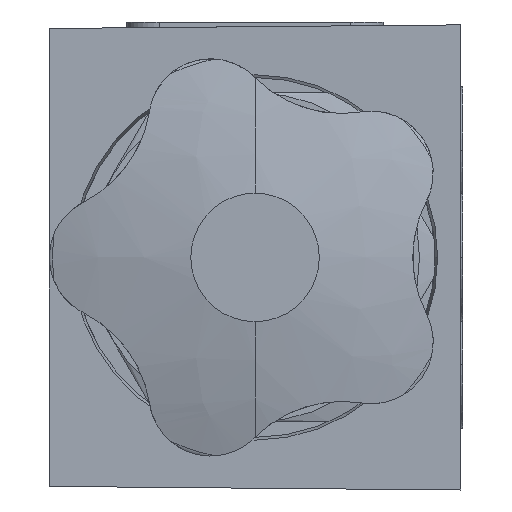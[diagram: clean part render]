
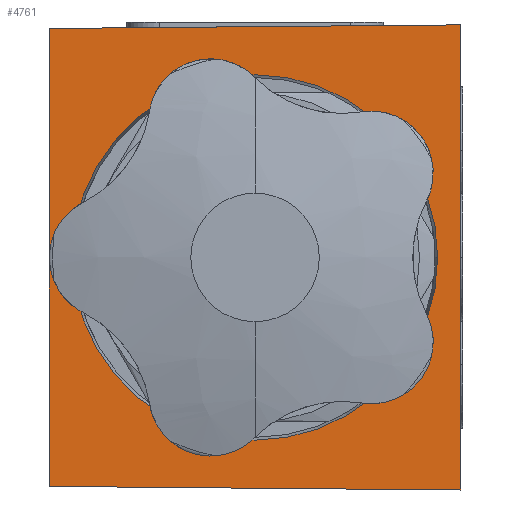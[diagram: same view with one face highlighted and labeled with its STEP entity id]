
A CAD part, left-side view. The second image highlights one B-rep face of the part: STEP entity #4761.
In plain terms, the highlighted planar face has unit normal (-1, 0, 0).
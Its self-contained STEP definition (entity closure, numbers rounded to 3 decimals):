
#356=DIRECTION('',(0.,0.,1.));
#357=VECTOR('',#356,44.544);
#358=CARTESIAN_POINT('',(-42.25,20.,-22.272));
#359=LINE('',#358,#357);
#449=DIRECTION('',(0.,-1.,0.009));
#450=VECTOR('',#449,40.002);
#451=CARTESIAN_POINT('',(-42.25,20.,22.272));
#452=LINE('',#451,#450);
#617=DIRECTION('',(0.,0.,-1.));
#618=VECTOR('',#617,45.242);
#619=CARTESIAN_POINT('',(-42.25,-20.,22.621));
#620=LINE('',#619,#618);
#1638=CARTESIAN_POINT('',(-42.25,0.,0.));
#1639=DIRECTION('',(-1.,0.,0.));
#1640=DIRECTION('',(0.,-1.,0.));
#1641=AXIS2_PLACEMENT_3D('',#1638,#1639,#1640);
#1656=CARTESIAN_POINT('',(-42.25,0.,0.));
#1657=DIRECTION('',(-1.,0.,0.));
#1658=DIRECTION('',(0.,1.,0.));
#1659=AXIS2_PLACEMENT_3D('',#1656,#1657,#1658);
#1999=DIRECTION('',(0.,-1.,-0.009));
#2000=VECTOR('',#1999,40.002);
#2001=CARTESIAN_POINT('',(-42.25,20.,-22.272));
#2002=LINE('',#2001,#2000);
#3896=CARTESIAN_POINT('',(-42.25,20.,22.272));
#3897=CARTESIAN_POINT('',(-42.25,-20.,22.621));
#3898=VERTEX_POINT('',#3896);
#3899=VERTEX_POINT('',#3897);
#3900=CARTESIAN_POINT('',(-42.25,20.,-22.272));
#3901=CARTESIAN_POINT('',(-42.25,-20.,-22.621));
#3902=VERTEX_POINT('',#3900);
#3903=VERTEX_POINT('',#3901);
#3904=CARTESIAN_POINT('',(-42.25,17.768,0.));
#3905=CARTESIAN_POINT('',(-42.25,-17.768,0.));
#3906=VERTEX_POINT('',#3904);
#3907=VERTEX_POINT('',#3905);
#4742=CARTESIAN_POINT('',(-42.25,0.,0.));
#4743=DIRECTION('',(1.,0.,0.));
#4744=DIRECTION('',(0.,-1.,0.));
#4745=AXIS2_PLACEMENT_3D('',#4742,#4743,#4744);
#4746=PLANE('',#4745);
#4747=ORIENTED_EDGE('',*,*,#4714,.T.);
#4749=ORIENTED_EDGE('',*,*,#4748,.T.);
#4751=ORIENTED_EDGE('',*,*,#4750,.F.);
#4752=ORIENTED_EDGE('',*,*,#4589,.T.);
#4753=EDGE_LOOP('',(#4747,#4749,#4751,#4752));
#4754=FACE_OUTER_BOUND('',#4753,.F.);
#4756=ORIENTED_EDGE('',*,*,#4755,.T.);
#4758=ORIENTED_EDGE('',*,*,#4757,.T.);
#4759=EDGE_LOOP('',(#4756,#4758));
#4760=FACE_BOUND('',#4759,.F.);
#1642=CIRCLE('',#1641,17.768);
#1660=CIRCLE('',#1659,17.768);
#4589=EDGE_CURVE('',#3902,#3898,#359,.T.);
#4714=EDGE_CURVE('',#3898,#3899,#452,.T.);
#4748=EDGE_CURVE('',#3899,#3903,#620,.T.);
#4750=EDGE_CURVE('',#3902,#3903,#2002,.T.);
#4755=EDGE_CURVE('',#3906,#3907,#1660,.T.);
#4757=EDGE_CURVE('',#3907,#3906,#1642,.T.);
#4761=ADVANCED_FACE('',(#4754,#4760),#4746,.F.);
